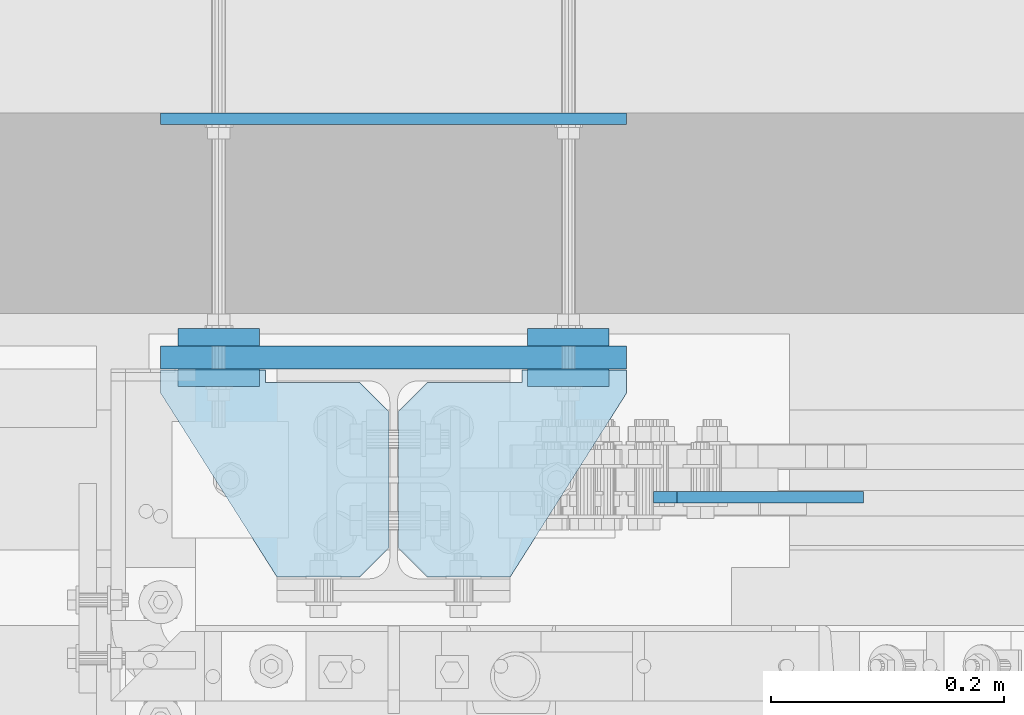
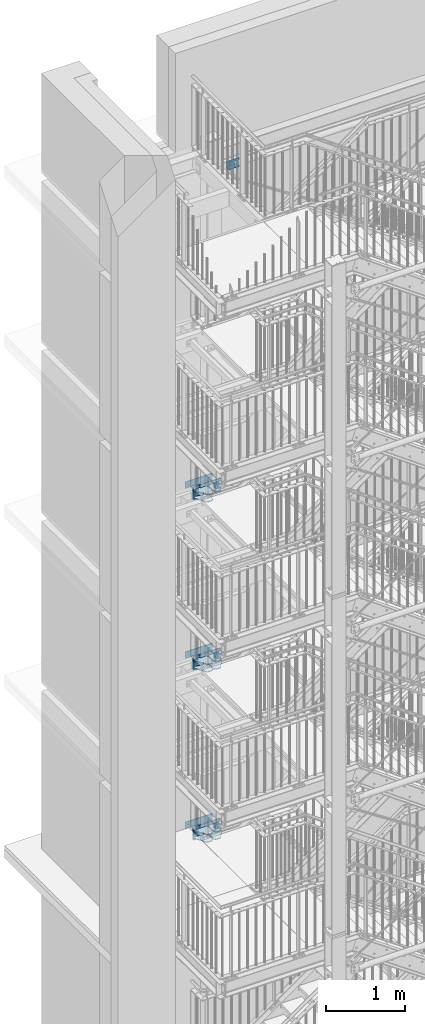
# One storey, part 188 of 831: 30 plates, 50 openings.
"""IFC2X3 building model written with IfcOpenShell, lengths in millimetres."""

from ifc_helpers import new_model, entity, si_unit, converted_unit, frame, frame_2d, origin, origin_with_axes, origin_2d_with_axis, place, context, project, spatial, polyline, circle, outline, extrude, material, layer, layer_set, element, save


model = new_model("IFC2X3")

# Units and contexts
model_context = context("Model", 3, precision=1e-09, world=origin_with_axes())
ifc_project = project(units=[si_unit("LENGTHUNIT", "METRE", prefix="MILLI"), si_unit("AREAUNIT", "SQUARE_METRE"), si_unit("VOLUMEUNIT", "CUBIC_METRE"), converted_unit("PLANEANGLEUNIT", "DEGREE", entity("IfcPlaneAngleMeasure", 0.01745329), si_unit("PLANEANGLEUNIT", "RADIAN"), dimensions=[0, 0, 0, 0, 0, 0, 0])], contexts=[model_context])

# Site, building, storey
site_placement = place(None, origin_with_axes())
site = spatial("IfcSite", under=ifc_project, at=site_placement, Name="Site", CompositionType="ELEMENT")
building_placement = place(site_placement, origin_with_axes())
building = spatial("IfcBuilding", under=site, at=building_placement, Name="Struktur 1", CompositionType="ELEMENT")
storey_placement = place(building_placement, origin_with_axes())
storey = spatial("IfcBuildingStorey", under=building, at=storey_placement, Name="Default Storey", CompositionType="ELEMENT", Elevation=0.0)

# Plate, openings
ifc_material = material(Name="S235JR")
ifc_layer_1 = layer(ifc_material, 10.0)
ifc_layer_set_1 = layer_set([ifc_layer_1], Name="S235JR")
plate_1_placement = place(None, frame((5169.963401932, 7506.736971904, 17498.999996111), z_axis=(0.0, 1.0, 0.0), x_axis=(-1.0, 0.0, 0.0)))
plate_1 = element("IfcPlate", 1, at=plate_1_placement, inside=storey, material=ifc_layer_set_1, Name="-", ObjectType="-", context=model_context, shape_type="SweptSolid", body=[
    extrude(outline(polyline([(-90.0, -70.0), (90.0, -70.0), (90.0, 70.0), (-90.0, 70.0), (-90.0, -70.0)])), origin_with_axes(), (0.0, 0.0, -1.0), 10.0),
])
opening_1_placement = place(plate_1_placement, frame((90.0, -70.0, 0.01), z_axis=(0.0, 0.0, 1.0), x_axis=(0.0, 1.0, 0.0)))
element("IfcOpeningElement", 2, at=opening_1_placement, cuts=plate_1, ObjectType="Opening", context=model_context, shape_type="SweptSolid", body=[
    extrude(outline(polyline([(0.0, 0.0), (20.0, 0.0), (0.0, 20.0), (0.0, 0.0)])), origin(), (0.0, 0.0, -1.0), 10.02),
])
opening_2_placement = place(plate_1_placement, frame((90.0, 70.0, 0.01), z_axis=(0.0, 0.0, 1.0), x_axis=(-1.0, 0.0, 0.0)))
element("IfcOpeningElement", 3, at=opening_2_placement, cuts=plate_1, ObjectType="Opening", context=model_context, shape_type="SweptSolid", body=[
    extrude(outline(polyline([(0.0, 0.0), (20.0, 0.0), (0.0, 20.0), (0.0, 0.0)])), origin(), (0.0, 0.0, -1.0), 10.02),
])
opening_3_placement = place(plate_1_placement, frame((40.999, 30.0, 0.5), z_axis=(0.0, 0.0, 1.0), x_axis=(1.0, 0.0, 0.0)))
element("IfcOpeningElement", 4, at=opening_3_placement, cuts=plate_1, ObjectType="Opening", context=model_context, shape_type="SweptSolid", body=[
    extrude(circle(Radius=9.001, at=frame_2d((9.001, 0.0), x_axis=(1.0, 0.0))), origin(), (0.0, 0.0, -1.0), 11.0),
])
opening_4_placement = place(plate_1_placement, frame((40.999, -30.0, 0.5), z_axis=(0.0, 0.0, 1.0), x_axis=(1.0, 0.0, 0.0)))
element("IfcOpeningElement", 5, at=opening_4_placement, cuts=plate_1, ObjectType="Opening", context=model_context, shape_type="SweptSolid", body=[
    extrude(circle(Radius=9.001, at=frame_2d((9.001, 0.0), x_axis=(1.0, 0.0))), origin(), (0.0, 0.0, -1.0), 11.0),
])

ifc_layer_2 = layer(ifc_material, 20.0)
ifc_layer_set_2 = layer_set([ifc_layer_2], Name="S235JR")
plate_2_placement = place(None, frame((4856.713402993, 7631.736971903, 7255.000000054), z_axis=(0.0, -1.0, 0.0), x_axis=(1.0, 0.0, 0.0)))
plate_2 = element("IfcPlate", 6, at=plate_2_placement, inside=storey, material=ifc_layer_set_2, Name="-", ObjectType="-", context=model_context, shape_type="SweptSolid", body=[
    extrude(outline(polyline([(-200.0, -100.0), (200.0, -100.0), (200.0, 100.0), (-200.0, 100.0), (-200.0, -100.0)])), origin_with_axes(), (0.0, 0.0, 1.0), 20.0),
])
opening_5_placement = place(plate_2_placement, frame((-3.4e-08, -5.4e-08, -0.5), z_axis=(0.0, 0.0, 1.0), x_axis=(1.0, 0.0, 0.0)))
element("IfcOpeningElement", 7, at=opening_5_placement, cuts=plate_2, ObjectType="Opening", context=model_context, shape_type="SweptSolid", body=[
    extrude(circle(Radius=20.001, at=frame_2d((150.0, 0.0), x_axis=(1.0, 0.0))), origin(), (0.0, 0.0, 1.0), 21.0),
])
opening_6_placement = place(plate_2_placement, frame((-3.4e-08, -5.4e-08, -0.5), z_axis=(0.0, 0.0, 1.0), x_axis=(1.0, 0.0, 0.0)))
element("IfcOpeningElement", 8, at=opening_6_placement, cuts=plate_2, ObjectType="Opening", context=model_context, shape_type="SweptSolid", body=[
    extrude(circle(Radius=20.001, at=frame_2d((-150.0, 0.0), x_axis=(1.0, 0.0))), origin(), (0.0, 0.0, 1.0), 21.0),
])

# Plate, opening
ifc_layer_3 = layer(ifc_material, 15.0)
ifc_layer_set_3 = layer_set([ifc_layer_3], Name="S235JR")
plate_3_placement = place(None, frame((4706.71340296, 7611.736971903, 7255.0), z_axis=(0.0, -1.0, 0.0), x_axis=(1.0, 0.0, 0.0)))
plate_3 = element("IfcPlate", 9, at=plate_3_placement, inside=storey, material=ifc_layer_set_3, Name="-", ObjectType="-", context=model_context, shape_type="SweptSolid", body=[
    extrude(outline(polyline([(-35.0, -35.0), (35.0, -35.0), (35.0, 35.0), (-35.0, 35.0), (-35.0, -35.0)])), origin_with_axes(), (0.0, 0.0, 1.0), 15.0),
])
opening_7_placement = place(plate_3_placement, frame((-2.68e-07, 0.0, -0.5), z_axis=(0.0, 0.0, 1.0), x_axis=(1.0, 0.0, 0.0)))
element("IfcOpeningElement", 10, at=opening_7_placement, cuts=plate_3, ObjectType="Opening", context=model_context, shape_type="SweptSolid", body=[
    extrude(circle(Radius=7.001, at=origin_2d_with_axis()), origin(), (0.0, 0.0, 1.0), 16.0),
])

plate_4_placement = place(None, frame((4706.71340296, 7646.736971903, 7255.0), z_axis=(0.0, -1.0, 0.0), x_axis=(1.0, 0.0, 0.0)))
plate_4 = element("IfcPlate", 11, at=plate_4_placement, inside=storey, material=ifc_layer_set_3, Name="-", ObjectType="-", context=model_context, shape_type="SweptSolid", body=[
    extrude(outline(polyline([(-35.0, -35.0), (35.0, -35.0), (35.0, 35.0), (-35.0, 35.0), (-35.0, -35.0)])), origin_with_axes(), (0.0, 0.0, 1.0), 15.0),
])
opening_8_placement = place(plate_4_placement, frame((-2.68e-07, 0.0, -0.5), z_axis=(0.0, 0.0, 1.0), x_axis=(1.0, 0.0, 0.0)))
element("IfcOpeningElement", 12, at=opening_8_placement, cuts=plate_4, ObjectType="Opening", context=model_context, shape_type="SweptSolid", body=[
    extrude(circle(Radius=7.001, at=origin_2d_with_axis()), origin(), (0.0, 0.0, 1.0), 16.0),
])

# Plate, openings
plate_5_placement = place(None, frame((4856.713402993, 7831.736971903, 7255.000000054), z_axis=(0.0, -1.0, 0.0), x_axis=(1.0, 0.0, 0.0)))
plate_5 = element("IfcPlate", 13, at=plate_5_placement, inside=storey, material=ifc_layer_set_1, Name="-", ObjectType="-", context=model_context, shape_type="SweptSolid", body=[
    extrude(outline(polyline([(-200.0, -50.0), (200.0, -50.0), (200.0, 50.0), (-200.0, 50.0), (-200.0, -50.0)])), origin_with_axes(), (0.0, 0.0, 1.0), 10.0),
])
opening_9_placement = place(plate_5_placement, frame((-3.4e-08, -5.4e-08, -0.5), z_axis=(0.0, 0.0, 1.0), x_axis=(1.0, 0.0, 0.0)))
element("IfcOpeningElement", 14, at=opening_9_placement, cuts=plate_5, ObjectType="Opening", context=model_context, shape_type="SweptSolid", body=[
    extrude(circle(Radius=7.001, at=frame_2d((150.0, 0.0), x_axis=(1.0, 0.0))), origin(), (0.0, 0.0, 1.0), 11.0),
])
opening_10_placement = place(plate_5_placement, frame((-3.4e-08, -5.4e-08, -0.5), z_axis=(0.0, 0.0, 1.0), x_axis=(1.0, 0.0, 0.0)))
element("IfcOpeningElement", 15, at=opening_10_placement, cuts=plate_5, ObjectType="Opening", context=model_context, shape_type="SweptSolid", body=[
    extrude(circle(Radius=7.001, at=frame_2d((-150.0, 0.0), x_axis=(1.0, 0.0))), origin(), (0.0, 0.0, 1.0), 11.0),
])

plate_6_placement = place(None, frame((4656.713402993, 7611.236971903, 7310.000000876), z_axis=(0.0, 0.0, 1.0), x_axis=(0.0, -1.0, 0.0)))
plate_6 = element("IfcPlate", 16, at=plate_6_placement, inside=storey, material=ifc_layer_set_1, Name="-", ObjectType="-", context=model_context, shape_type="SweptSolid", body=[
    extrude(outline(polyline([(0.0, 0.0), (20.0, 0.0), (178.0, 100.0), (178.0, 196.0), (11.0, 196.0), (11.0, 90.0), (0.0, 90.0), (0.0, 0.0)])), origin_with_axes(), (0.0, 0.0, 1.0), 10.0),
])
opening_11_placement = place(plate_6_placement, frame((0.0, 0.0, -0.01), z_axis=(0.0, 0.0, 1.0), x_axis=(1.0, 0.0, 0.0)))
element("IfcOpeningElement", 17, at=opening_11_placement, cuts=plate_6, ObjectType="Opening", context=model_context, shape_type="SweptSolid", body=[
    extrude(outline(polyline([(11.0, 196.0), (11.0, 171.0), (36.0, 196.0), (11.0, 196.0)])), origin(), (0.0, 0.0, 1.0), 10.02),
])
opening_12_placement = place(plate_6_placement, frame((0.0, 0.0, -0.01), z_axis=(0.0, 0.0, 1.0), x_axis=(1.0, 0.0, 0.0)))
element("IfcOpeningElement", 18, at=opening_12_placement, cuts=plate_6, ObjectType="Opening", context=model_context, shape_type="SweptSolid", body=[
    extrude(outline(polyline([(178.0, 196.0), (153.0, 196.0), (178.0, 171.0), (178.0, 196.0)])), origin(), (0.0, 0.0, 1.0), 10.02),
])

plate_7_placement = place(None, frame((5056.713402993, 7611.236971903, 7310.000000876), z_axis=(0.0, 0.0, -1.0), x_axis=(0.0, -1.0, 0.0)))
plate_7 = element("IfcPlate", 19, at=plate_7_placement, inside=storey, material=ifc_layer_set_1, Name="-", ObjectType="-", context=model_context, shape_type="SweptSolid", body=[
    extrude(outline(polyline([(0.0, 0.0), (20.0, 0.0), (178.0, 100.0), (178.0, 196.0), (11.0, 196.0), (11.0, 90.0), (0.0, 90.0), (0.0, 0.0)])), origin_with_axes(), (0.0, 0.0, -1.0), 10.0),
])
opening_13_placement = place(plate_7_placement, frame((11.0, 196.0, 0.01), z_axis=(0.0, 0.0, 1.0), x_axis=(0.0, -1.0, 0.0)))
element("IfcOpeningElement", 20, at=opening_13_placement, cuts=plate_7, ObjectType="Opening", context=model_context, shape_type="SweptSolid", body=[
    extrude(outline(polyline([(0.0, 0.0), (25.0, 0.0), (0.0, 25.0), (0.0, 0.0)])), origin(), (0.0, 0.0, -1.0), 10.02),
])
opening_14_placement = place(plate_7_placement, frame((178.0, 196.0, 0.01), z_axis=(0.0, 0.0, 1.0), x_axis=(-1.0, 0.0, 0.0)))
element("IfcOpeningElement", 21, at=opening_14_placement, cuts=plate_7, ObjectType="Opening", context=model_context, shape_type="SweptSolid", body=[
    extrude(outline(polyline([(0.0, 0.0), (25.0, 0.0), (0.0, 25.0), (0.0, 0.0)])), origin(), (0.0, 0.0, -1.0), 10.02),
])

plate_8_placement = place(None, frame((4656.713402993, 7611.236971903, 7190.000000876), z_axis=(0.0, 0.0, 1.0), x_axis=(0.0, -1.0, 0.0)))
plate_8 = element("IfcPlate", 22, at=plate_8_placement, inside=storey, material=ifc_layer_set_1, Name="-", ObjectType="-", context=model_context, shape_type="SweptSolid", body=[
    extrude(outline(polyline([(0.0, 0.0), (20.0, 0.0), (178.0, 100.0), (178.0, 196.0), (11.0, 196.0), (11.0, 90.0), (0.0, 90.0), (0.0, 0.0)])), origin_with_axes(), (0.0, 0.0, 1.0), 10.0),
])
opening_15_placement = place(plate_8_placement, frame((0.0, 0.0, -0.01), z_axis=(0.0, 0.0, 1.0), x_axis=(1.0, 0.0, 0.0)))
element("IfcOpeningElement", 23, at=opening_15_placement, cuts=plate_8, ObjectType="Opening", context=model_context, shape_type="SweptSolid", body=[
    extrude(outline(polyline([(11.0, 196.0), (11.0, 171.0), (36.0, 196.0), (11.0, 196.0)])), origin(), (0.0, 0.0, 1.0), 10.02),
])
opening_16_placement = place(plate_8_placement, frame((0.0, 0.0, -0.01), z_axis=(0.0, 0.0, 1.0), x_axis=(1.0, 0.0, 0.0)))
element("IfcOpeningElement", 24, at=opening_16_placement, cuts=plate_8, ObjectType="Opening", context=model_context, shape_type="SweptSolid", body=[
    extrude(outline(polyline([(178.0, 196.0), (153.0, 196.0), (178.0, 171.0), (178.0, 196.0)])), origin(), (0.0, 0.0, 1.0), 10.02),
])

plate_9_placement = place(None, frame((5056.713402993, 7611.236971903, 7190.000000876), z_axis=(0.0, 0.0, -1.0), x_axis=(0.0, -1.0, 0.0)))
plate_9 = element("IfcPlate", 25, at=plate_9_placement, inside=storey, material=ifc_layer_set_1, Name="-", ObjectType="-", context=model_context, shape_type="SweptSolid", body=[
    extrude(outline(polyline([(0.0, 0.0), (20.0, 0.0), (178.0, 100.0), (178.0, 196.0), (11.0, 196.0), (11.0, 90.0), (0.0, 90.0), (0.0, 0.0)])), origin_with_axes(), (0.0, 0.0, -1.0), 10.0),
])
opening_17_placement = place(plate_9_placement, frame((11.0, 196.0, 0.01), z_axis=(0.0, 0.0, 1.0), x_axis=(0.0, -1.0, 0.0)))
element("IfcOpeningElement", 26, at=opening_17_placement, cuts=plate_9, ObjectType="Opening", context=model_context, shape_type="SweptSolid", body=[
    extrude(outline(polyline([(0.0, 0.0), (25.0, 0.0), (0.0, 25.0), (0.0, 0.0)])), origin(), (0.0, 0.0, -1.0), 10.02),
])
opening_18_placement = place(plate_9_placement, frame((178.0, 196.0, 0.01), z_axis=(0.0, 0.0, 1.0), x_axis=(-1.0, 0.0, 0.0)))
element("IfcOpeningElement", 27, at=opening_18_placement, cuts=plate_9, ObjectType="Opening", context=model_context, shape_type="SweptSolid", body=[
    extrude(outline(polyline([(0.0, 0.0), (25.0, 0.0), (0.0, 25.0), (0.0, 0.0)])), origin(), (0.0, 0.0, -1.0), 10.02),
])

# Plate, opening
plate_10_placement = place(None, frame((5006.713403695, 7611.736971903, 7255.0), z_axis=(0.0, 1.0, 0.0), x_axis=(-1.0, 0.0, 0.0)))
plate_10 = element("IfcPlate", 28, at=plate_10_placement, inside=storey, material=ifc_layer_set_3, Name="-", ObjectType="-", context=model_context, shape_type="SweptSolid", body=[
    extrude(outline(polyline([(-35.0, -35.0), (35.0, -35.0), (35.0, 35.0), (-35.0, 35.0), (-35.0, -35.0)])), origin_with_axes(), (0.0, 0.0, -1.0), 15.0),
])
opening_19_placement = place(plate_10_placement, frame((-7.001000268, 0.0, 0.5), z_axis=(0.0, 0.0, 1.0), x_axis=(1.0, 0.0, 0.0)))
element("IfcOpeningElement", 29, at=opening_19_placement, cuts=plate_10, ObjectType="Opening", context=model_context, shape_type="SweptSolid", body=[
    extrude(circle(Radius=7.001, at=frame_2d((7.001, 0.0), x_axis=(1.0, 0.0))), origin(), (0.0, 0.0, -1.0), 16.0),
])

plate_11_placement = place(None, frame((5006.713403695, 7646.736971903, 7255.0), z_axis=(0.0, 1.0, 0.0), x_axis=(-1.0, 0.0, 0.0)))
plate_11 = element("IfcPlate", 30, at=plate_11_placement, inside=storey, material=ifc_layer_set_3, Name="-", ObjectType="-", context=model_context, shape_type="SweptSolid", body=[
    extrude(outline(polyline([(-35.0, -35.0), (35.0, -35.0), (35.0, 35.0), (-35.0, 35.0), (-35.0, -35.0)])), origin_with_axes(), (0.0, 0.0, -1.0), 15.0),
])
opening_20_placement = place(plate_11_placement, frame((-7.001000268, 0.0, 0.5), z_axis=(0.0, 0.0, 1.0), x_axis=(1.0, 0.0, 0.0)))
element("IfcOpeningElement", 31, at=opening_20_placement, cuts=plate_11, ObjectType="Opening", context=model_context, shape_type="SweptSolid", body=[
    extrude(circle(Radius=7.001, at=frame_2d((7.001, 0.0), x_axis=(1.0, 0.0))), origin(), (0.0, 0.0, -1.0), 16.0),
])

plate_12_placement = place(None, frame((5006.713403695, 7646.736971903, 9887.0), z_axis=(0.0, 1.0, 0.0), x_axis=(-1.0, 0.0, 0.0)))
plate_12 = element("IfcPlate", 32, at=plate_12_placement, inside=storey, material=ifc_layer_set_3, Name="-", ObjectType="-", context=model_context, shape_type="SweptSolid", body=[
    extrude(outline(polyline([(-35.0, -35.0), (35.0, -35.0), (35.0, 35.0), (-35.0, 35.0), (-35.0, -35.0)])), origin_with_axes(), (0.0, 0.0, -1.0), 15.0),
])
opening_21_placement = place(plate_12_placement, frame((-7.001000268, 0.0, 0.5), z_axis=(0.0, 0.0, 1.0), x_axis=(1.0, 0.0, 0.0)))
element("IfcOpeningElement", 33, at=opening_21_placement, cuts=plate_12, ObjectType="Opening", context=model_context, shape_type="SweptSolid", body=[
    extrude(circle(Radius=7.001, at=frame_2d((7.001, 0.0), x_axis=(1.0, 0.0))), origin(), (0.0, 0.0, -1.0), 16.0),
])

plate_13_placement = place(None, frame((5006.713403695, 7611.736971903, 9887.0), z_axis=(0.0, 1.0, 0.0), x_axis=(-1.0, 0.0, 0.0)))
plate_13 = element("IfcPlate", 34, at=plate_13_placement, inside=storey, material=ifc_layer_set_3, Name="-", ObjectType="-", context=model_context, shape_type="SweptSolid", body=[
    extrude(outline(polyline([(-35.0, -35.0), (35.0, -35.0), (35.0, 35.0), (-35.0, 35.0), (-35.0, -35.0)])), origin_with_axes(), (0.0, 0.0, -1.0), 15.0),
])
opening_22_placement = place(plate_13_placement, frame((-7.001000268, 0.0, 0.5), z_axis=(0.0, 0.0, 1.0), x_axis=(1.0, 0.0, 0.0)))
element("IfcOpeningElement", 35, at=opening_22_placement, cuts=plate_13, ObjectType="Opening", context=model_context, shape_type="SweptSolid", body=[
    extrude(circle(Radius=7.001, at=frame_2d((7.001, 0.0), x_axis=(1.0, 0.0))), origin(), (0.0, 0.0, -1.0), 16.0),
])

# Plate, openings
plate_14_placement = place(None, frame((4856.713402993, 7831.736971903, 9887.000000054), z_axis=(0.0, -1.0, 0.0), x_axis=(1.0, 0.0, 0.0)))
plate_14 = element("IfcPlate", 36, at=plate_14_placement, inside=storey, material=ifc_layer_set_1, Name="-", ObjectType="-", context=model_context, shape_type="SweptSolid", body=[
    extrude(outline(polyline([(-200.0, -50.0), (200.0, -50.0), (200.0, 50.0), (-200.0, 50.0), (-200.0, -50.0)])), origin_with_axes(), (0.0, 0.0, 1.0), 10.0),
])
opening_23_placement = place(plate_14_placement, frame((-3.4e-08, -5.4e-08, -0.5), z_axis=(0.0, 0.0, 1.0), x_axis=(1.0, 0.0, 0.0)))
element("IfcOpeningElement", 37, at=opening_23_placement, cuts=plate_14, ObjectType="Opening", context=model_context, shape_type="SweptSolid", body=[
    extrude(circle(Radius=7.001, at=frame_2d((150.0, 0.0), x_axis=(1.0, 0.0))), origin(), (0.0, 0.0, 1.0), 11.0),
])
opening_24_placement = place(plate_14_placement, frame((-3.4e-08, -5.4e-08, -0.5), z_axis=(0.0, 0.0, 1.0), x_axis=(1.0, 0.0, 0.0)))
element("IfcOpeningElement", 38, at=opening_24_placement, cuts=plate_14, ObjectType="Opening", context=model_context, shape_type="SweptSolid", body=[
    extrude(circle(Radius=7.001, at=frame_2d((-150.0, 0.0), x_axis=(1.0, 0.0))), origin(), (0.0, 0.0, 1.0), 11.0),
])

# Plate, opening
plate_15_placement = place(None, frame((4706.71340296, 7646.736971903, 9887.0), z_axis=(0.0, -1.0, 0.0), x_axis=(1.0, 0.0, 0.0)))
plate_15 = element("IfcPlate", 39, at=plate_15_placement, inside=storey, material=ifc_layer_set_3, Name="-", ObjectType="-", context=model_context, shape_type="SweptSolid", body=[
    extrude(outline(polyline([(-35.0, -35.0), (35.0, -35.0), (35.0, 35.0), (-35.0, 35.0), (-35.0, -35.0)])), origin_with_axes(), (0.0, 0.0, 1.0), 15.0),
])
opening_25_placement = place(plate_15_placement, frame((-2.68e-07, 0.0, -0.5), z_axis=(0.0, 0.0, 1.0), x_axis=(1.0, 0.0, 0.0)))
element("IfcOpeningElement", 40, at=opening_25_placement, cuts=plate_15, ObjectType="Opening", context=model_context, shape_type="SweptSolid", body=[
    extrude(circle(Radius=7.001, at=origin_2d_with_axis()), origin(), (0.0, 0.0, 1.0), 16.0),
])

plate_16_placement = place(None, frame((4706.71340296, 7611.736971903, 9887.0), z_axis=(0.0, -1.0, 0.0), x_axis=(1.0, 0.0, 0.0)))
plate_16 = element("IfcPlate", 41, at=plate_16_placement, inside=storey, material=ifc_layer_set_3, Name="-", ObjectType="-", context=model_context, shape_type="SweptSolid", body=[
    extrude(outline(polyline([(-35.0, -35.0), (35.0, -35.0), (35.0, 35.0), (-35.0, 35.0), (-35.0, -35.0)])), origin_with_axes(), (0.0, 0.0, 1.0), 15.0),
])
opening_26_placement = place(plate_16_placement, frame((-2.68e-07, 0.0, -0.5), z_axis=(0.0, 0.0, 1.0), x_axis=(1.0, 0.0, 0.0)))
element("IfcOpeningElement", 42, at=opening_26_placement, cuts=plate_16, ObjectType="Opening", context=model_context, shape_type="SweptSolid", body=[
    extrude(circle(Radius=7.001, at=origin_2d_with_axis()), origin(), (0.0, 0.0, 1.0), 16.0),
])

# Plate, openings
plate_17_placement = place(None, frame((5056.713402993, 7611.236971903, 9822.000000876), z_axis=(0.0, 0.0, -1.0), x_axis=(0.0, -1.0, 0.0)))
plate_17 = element("IfcPlate", 43, at=plate_17_placement, inside=storey, material=ifc_layer_set_1, Name="-", ObjectType="-", context=model_context, shape_type="SweptSolid", body=[
    extrude(outline(polyline([(0.0, 0.0), (20.0, 0.0), (178.0, 100.0), (178.0, 196.0), (11.0, 196.0), (11.0, 90.0), (0.0, 90.0), (0.0, 0.0)])), origin_with_axes(), (0.0, 0.0, -1.0), 10.0),
])
opening_27_placement = place(plate_17_placement, frame((11.0, 196.0, 0.01), z_axis=(0.0, 0.0, 1.0), x_axis=(0.0, -1.0, 0.0)))
element("IfcOpeningElement", 44, at=opening_27_placement, cuts=plate_17, ObjectType="Opening", context=model_context, shape_type="SweptSolid", body=[
    extrude(outline(polyline([(0.0, 0.0), (25.0, 0.0), (0.0, 25.0), (0.0, 0.0)])), origin(), (0.0, 0.0, -1.0), 10.02),
])
opening_28_placement = place(plate_17_placement, frame((178.0, 196.0, 0.01), z_axis=(0.0, 0.0, 1.0), x_axis=(-1.0, 0.0, 0.0)))
element("IfcOpeningElement", 45, at=opening_28_placement, cuts=plate_17, ObjectType="Opening", context=model_context, shape_type="SweptSolid", body=[
    extrude(outline(polyline([(0.0, 0.0), (25.0, 0.0), (0.0, 25.0), (0.0, 0.0)])), origin(), (0.0, 0.0, -1.0), 10.02),
])

plate_18_placement = place(None, frame((5056.713402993, 7611.236971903, 9942.000000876), z_axis=(0.0, 0.0, -1.0), x_axis=(0.0, -1.0, 0.0)))
plate_18 = element("IfcPlate", 46, at=plate_18_placement, inside=storey, material=ifc_layer_set_1, Name="-", ObjectType="-", context=model_context, shape_type="SweptSolid", body=[
    extrude(outline(polyline([(0.0, 0.0), (20.0, 0.0), (178.0, 100.0), (178.0, 196.0), (11.0, 196.0), (11.0, 90.0), (0.0, 90.0), (0.0, 0.0)])), origin_with_axes(), (0.0, 0.0, -1.0), 10.0),
])
opening_29_placement = place(plate_18_placement, frame((11.0, 196.0, 0.01), z_axis=(0.0, 0.0, 1.0), x_axis=(0.0, -1.0, 0.0)))
element("IfcOpeningElement", 47, at=opening_29_placement, cuts=plate_18, ObjectType="Opening", context=model_context, shape_type="SweptSolid", body=[
    extrude(outline(polyline([(0.0, 0.0), (25.0, 0.0), (0.0, 25.0), (0.0, 0.0)])), origin(), (0.0, 0.0, -1.0), 10.02),
])
opening_30_placement = place(plate_18_placement, frame((178.0, 196.0, 0.01), z_axis=(0.0, 0.0, 1.0), x_axis=(-1.0, 0.0, 0.0)))
element("IfcOpeningElement", 48, at=opening_30_placement, cuts=plate_18, ObjectType="Opening", context=model_context, shape_type="SweptSolid", body=[
    extrude(outline(polyline([(0.0, 0.0), (25.0, 0.0), (0.0, 25.0), (0.0, 0.0)])), origin(), (0.0, 0.0, -1.0), 10.02),
])

plate_19_placement = place(None, frame((4656.713402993, 7611.236971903, 9822.000000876), z_axis=(0.0, 0.0, 1.0), x_axis=(0.0, -1.0, 0.0)))
plate_19 = element("IfcPlate", 49, at=plate_19_placement, inside=storey, material=ifc_layer_set_1, Name="-", ObjectType="-", context=model_context, shape_type="SweptSolid", body=[
    extrude(outline(polyline([(0.0, 0.0), (20.0, 0.0), (178.0, 100.0), (178.0, 196.0), (11.0, 196.0), (11.0, 90.0), (0.0, 90.0), (0.0, 0.0)])), origin_with_axes(), (0.0, 0.0, 1.0), 10.0),
])
opening_31_placement = place(plate_19_placement, frame((0.0, 0.0, -0.01), z_axis=(0.0, 0.0, 1.0), x_axis=(1.0, 0.0, 0.0)))
element("IfcOpeningElement", 50, at=opening_31_placement, cuts=plate_19, ObjectType="Opening", context=model_context, shape_type="SweptSolid", body=[
    extrude(outline(polyline([(11.0, 196.0), (11.0, 171.0), (36.0, 196.0), (11.0, 196.0)])), origin(), (0.0, 0.0, 1.0), 10.02),
])
opening_32_placement = place(plate_19_placement, frame((0.0, 0.0, -0.01), z_axis=(0.0, 0.0, 1.0), x_axis=(1.0, 0.0, 0.0)))
element("IfcOpeningElement", 51, at=opening_32_placement, cuts=plate_19, ObjectType="Opening", context=model_context, shape_type="SweptSolid", body=[
    extrude(outline(polyline([(178.0, 196.0), (153.0, 196.0), (178.0, 171.0), (178.0, 196.0)])), origin(), (0.0, 0.0, 1.0), 10.02),
])

plate_20_placement = place(None, frame((4656.713402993, 7611.236971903, 9942.000000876), z_axis=(0.0, 0.0, 1.0), x_axis=(0.0, -1.0, 0.0)))
plate_20 = element("IfcPlate", 52, at=plate_20_placement, inside=storey, material=ifc_layer_set_1, Name="-", ObjectType="-", context=model_context, shape_type="SweptSolid", body=[
    extrude(outline(polyline([(0.0, 0.0), (20.0, 0.0), (178.0, 100.0), (178.0, 196.0), (11.0, 196.0), (11.0, 90.0), (0.0, 90.0), (0.0, 0.0)])), origin_with_axes(), (0.0, 0.0, 1.0), 10.0),
])
opening_33_placement = place(plate_20_placement, frame((0.0, 0.0, -0.01), z_axis=(0.0, 0.0, 1.0), x_axis=(1.0, 0.0, 0.0)))
element("IfcOpeningElement", 53, at=opening_33_placement, cuts=plate_20, ObjectType="Opening", context=model_context, shape_type="SweptSolid", body=[
    extrude(outline(polyline([(11.0, 196.0), (11.0, 171.0), (36.0, 196.0), (11.0, 196.0)])), origin(), (0.0, 0.0, 1.0), 10.02),
])
opening_34_placement = place(plate_20_placement, frame((0.0, 0.0, -0.01), z_axis=(0.0, 0.0, 1.0), x_axis=(1.0, 0.0, 0.0)))
element("IfcOpeningElement", 54, at=opening_34_placement, cuts=plate_20, ObjectType="Opening", context=model_context, shape_type="SweptSolid", body=[
    extrude(outline(polyline([(178.0, 196.0), (153.0, 196.0), (178.0, 171.0), (178.0, 196.0)])), origin(), (0.0, 0.0, 1.0), 10.02),
])

plate_21_placement = place(None, frame((4856.713402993, 7631.736971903, 9887.000000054), z_axis=(0.0, -1.0, 0.0), x_axis=(1.0, 0.0, 0.0)))
plate_21 = element("IfcPlate", 55, at=plate_21_placement, inside=storey, material=ifc_layer_set_2, Name="-", ObjectType="-", context=model_context, shape_type="SweptSolid", body=[
    extrude(outline(polyline([(-200.0, -100.0), (200.0, -100.0), (200.0, 100.0), (-200.0, 100.0), (-200.0, -100.0)])), origin_with_axes(), (0.0, 0.0, 1.0), 20.0),
])
opening_35_placement = place(plate_21_placement, frame((-3.4e-08, -5.4e-08, -0.5), z_axis=(0.0, 0.0, 1.0), x_axis=(1.0, 0.0, 0.0)))
element("IfcOpeningElement", 56, at=opening_35_placement, cuts=plate_21, ObjectType="Opening", context=model_context, shape_type="SweptSolid", body=[
    extrude(circle(Radius=20.001, at=frame_2d((150.0, 0.0), x_axis=(1.0, 0.0))), origin(), (0.0, 0.0, 1.0), 21.0),
])
opening_36_placement = place(plate_21_placement, frame((-3.4e-08, -5.4e-08, -0.5), z_axis=(0.0, 0.0, 1.0), x_axis=(1.0, 0.0, 0.0)))
element("IfcOpeningElement", 57, at=opening_36_placement, cuts=plate_21, ObjectType="Opening", context=model_context, shape_type="SweptSolid", body=[
    extrude(circle(Radius=20.001, at=frame_2d((-150.0, 0.0), x_axis=(1.0, 0.0))), origin(), (0.0, 0.0, 1.0), 21.0),
])

# Plate, opening
plate_22_placement = place(None, frame((4706.71340296, 7611.736971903, 12514.0), z_axis=(0.0, -1.0, 0.0), x_axis=(1.0, 0.0, 0.0)))
plate_22 = element("IfcPlate", 58, at=plate_22_placement, inside=storey, material=ifc_layer_set_3, Name="-", ObjectType="-", context=model_context, shape_type="SweptSolid", body=[
    extrude(outline(polyline([(-35.0, -35.0), (35.0, -35.0), (35.0, 35.0), (-35.0, 35.0), (-35.0, -35.0)])), origin_with_axes(), (0.0, 0.0, 1.0), 15.0),
])
opening_37_placement = place(plate_22_placement, frame((-2.68e-07, 0.0, -0.5), z_axis=(0.0, 0.0, 1.0), x_axis=(1.0, 0.0, 0.0)))
element("IfcOpeningElement", 59, at=opening_37_placement, cuts=plate_22, ObjectType="Opening", context=model_context, shape_type="SweptSolid", body=[
    extrude(circle(Radius=7.001, at=origin_2d_with_axis()), origin(), (0.0, 0.0, 1.0), 16.0),
])

plate_23_placement = place(None, frame((4706.71340296, 7646.736971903, 12514.0), z_axis=(0.0, -1.0, 0.0), x_axis=(1.0, 0.0, 0.0)))
plate_23 = element("IfcPlate", 60, at=plate_23_placement, inside=storey, material=ifc_layer_set_3, Name="-", ObjectType="-", context=model_context, shape_type="SweptSolid", body=[
    extrude(outline(polyline([(-35.0, -35.0), (35.0, -35.0), (35.0, 35.0), (-35.0, 35.0), (-35.0, -35.0)])), origin_with_axes(), (0.0, 0.0, 1.0), 15.0),
])
opening_38_placement = place(plate_23_placement, frame((-2.68e-07, 0.0, -0.5), z_axis=(0.0, 0.0, 1.0), x_axis=(1.0, 0.0, 0.0)))
element("IfcOpeningElement", 61, at=opening_38_placement, cuts=plate_23, ObjectType="Opening", context=model_context, shape_type="SweptSolid", body=[
    extrude(circle(Radius=7.001, at=origin_2d_with_axis()), origin(), (0.0, 0.0, 1.0), 16.0),
])

# Plate, openings
plate_24_placement = place(None, frame((4856.713402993, 7831.736971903, 12514.000000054), z_axis=(0.0, -1.0, 0.0), x_axis=(1.0, 0.0, 0.0)))
plate_24 = element("IfcPlate", 62, at=plate_24_placement, inside=storey, material=ifc_layer_set_1, Name="-", ObjectType="-", context=model_context, shape_type="SweptSolid", body=[
    extrude(outline(polyline([(-200.0, -50.0), (200.0, -50.0), (200.0, 50.0), (-200.0, 50.0), (-200.0, -50.0)])), origin_with_axes(), (0.0, 0.0, 1.0), 10.0),
])
opening_39_placement = place(plate_24_placement, frame((-3.4e-08, -5.4e-08, -0.5), z_axis=(0.0, 0.0, 1.0), x_axis=(1.0, 0.0, 0.0)))
element("IfcOpeningElement", 63, at=opening_39_placement, cuts=plate_24, ObjectType="Opening", context=model_context, shape_type="SweptSolid", body=[
    extrude(circle(Radius=7.001, at=frame_2d((150.0, 0.0), x_axis=(1.0, 0.0))), origin(), (0.0, 0.0, 1.0), 11.0),
])
opening_40_placement = place(plate_24_placement, frame((-3.4e-08, -5.4e-08, -0.5), z_axis=(0.0, 0.0, 1.0), x_axis=(1.0, 0.0, 0.0)))
element("IfcOpeningElement", 64, at=opening_40_placement, cuts=plate_24, ObjectType="Opening", context=model_context, shape_type="SweptSolid", body=[
    extrude(circle(Radius=7.001, at=frame_2d((-150.0, 0.0), x_axis=(1.0, 0.0))), origin(), (0.0, 0.0, 1.0), 11.0),
])

# Plate, opening
plate_25_placement = place(None, frame((5006.713403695, 7611.736971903, 12514.0), z_axis=(0.0, 1.0, 0.0), x_axis=(-1.0, 0.0, 0.0)))
plate_25 = element("IfcPlate", 65, at=plate_25_placement, inside=storey, material=ifc_layer_set_3, Name="-", ObjectType="-", context=model_context, shape_type="SweptSolid", body=[
    extrude(outline(polyline([(-35.0, -35.0), (35.0, -35.0), (35.0, 35.0), (-35.0, 35.0), (-35.0, -35.0)])), origin_with_axes(), (0.0, 0.0, -1.0), 15.0),
])
opening_41_placement = place(plate_25_placement, frame((-7.001000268, 0.0, 0.5), z_axis=(0.0, 0.0, 1.0), x_axis=(1.0, 0.0, 0.0)))
element("IfcOpeningElement", 66, at=opening_41_placement, cuts=plate_25, ObjectType="Opening", context=model_context, shape_type="SweptSolid", body=[
    extrude(circle(Radius=7.001, at=frame_2d((7.001, 0.0), x_axis=(1.0, 0.0))), origin(), (0.0, 0.0, -1.0), 16.0),
])

plate_26_placement = place(None, frame((5006.713403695, 7646.736971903, 12514.0), z_axis=(0.0, 1.0, 0.0), x_axis=(-1.0, 0.0, 0.0)))
plate_26 = element("IfcPlate", 67, at=plate_26_placement, inside=storey, material=ifc_layer_set_3, Name="-", ObjectType="-", context=model_context, shape_type="SweptSolid", body=[
    extrude(outline(polyline([(-35.0, -35.0), (35.0, -35.0), (35.0, 35.0), (-35.0, 35.0), (-35.0, -35.0)])), origin_with_axes(), (0.0, 0.0, -1.0), 15.0),
])
opening_42_placement = place(plate_26_placement, frame((-7.001000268, 0.0, 0.5), z_axis=(0.0, 0.0, 1.0), x_axis=(1.0, 0.0, 0.0)))
element("IfcOpeningElement", 68, at=opening_42_placement, cuts=plate_26, ObjectType="Opening", context=model_context, shape_type="SweptSolid", body=[
    extrude(circle(Radius=7.001, at=frame_2d((7.001, 0.0), x_axis=(1.0, 0.0))), origin(), (0.0, 0.0, -1.0), 16.0),
])

# Plate, openings
plate_27_placement = place(None, frame((4856.713402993, 7631.736971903, 12514.000000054), z_axis=(0.0, -1.0, 0.0), x_axis=(1.0, 0.0, 0.0)))
plate_27 = element("IfcPlate", 69, at=plate_27_placement, inside=storey, material=ifc_layer_set_2, Name="-", ObjectType="-", context=model_context, shape_type="SweptSolid", body=[
    extrude(outline(polyline([(-200.0, -100.0), (200.0, -100.0), (200.0, 100.0), (-200.0, 100.0), (-200.0, -100.0)])), origin_with_axes(), (0.0, 0.0, 1.0), 20.0),
])
opening_43_placement = place(plate_27_placement, frame((-3.4e-08, -5.4e-08, -0.5), z_axis=(0.0, 0.0, 1.0), x_axis=(1.0, 0.0, 0.0)))
element("IfcOpeningElement", 70, at=opening_43_placement, cuts=plate_27, ObjectType="Opening", context=model_context, shape_type="SweptSolid", body=[
    extrude(circle(Radius=20.001, at=frame_2d((150.0, 0.0), x_axis=(1.0, 0.0))), origin(), (0.0, 0.0, 1.0), 21.0),
])
opening_44_placement = place(plate_27_placement, frame((-3.4e-08, -5.4e-08, -0.5), z_axis=(0.0, 0.0, 1.0), x_axis=(1.0, 0.0, 0.0)))
element("IfcOpeningElement", 71, at=opening_44_placement, cuts=plate_27, ObjectType="Opening", context=model_context, shape_type="SweptSolid", body=[
    extrude(circle(Radius=20.001, at=frame_2d((-150.0, 0.0), x_axis=(1.0, 0.0))), origin(), (0.0, 0.0, 1.0), 21.0),
])

plate_28_placement = place(None, frame((4656.713402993, 7611.236971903, 12569.000000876), z_axis=(0.0, 0.0, 1.0), x_axis=(0.0, -1.0, 0.0)))
plate_28 = element("IfcPlate", 72, at=plate_28_placement, inside=storey, material=ifc_layer_set_1, Name="-", ObjectType="-", context=model_context, shape_type="SweptSolid", body=[
    extrude(outline(polyline([(0.0, 0.0), (20.0, 0.0), (178.0, 100.0), (178.0, 196.0), (11.0, 196.0), (11.0, 90.0), (0.0, 90.0), (0.0, 0.0)])), origin_with_axes(), (0.0, 0.0, 1.0), 10.0),
])
opening_45_placement = place(plate_28_placement, frame((0.0, 0.0, -0.01), z_axis=(0.0, 0.0, 1.0), x_axis=(1.0, 0.0, 0.0)))
element("IfcOpeningElement", 73, at=opening_45_placement, cuts=plate_28, ObjectType="Opening", context=model_context, shape_type="SweptSolid", body=[
    extrude(outline(polyline([(11.0, 196.0), (11.0, 171.0), (36.0, 196.0), (11.0, 196.0)])), origin(), (0.0, 0.0, 1.0), 10.02),
])
opening_46_placement = place(plate_28_placement, frame((0.0, 0.0, -0.01), z_axis=(0.0, 0.0, 1.0), x_axis=(1.0, 0.0, 0.0)))
element("IfcOpeningElement", 74, at=opening_46_placement, cuts=plate_28, ObjectType="Opening", context=model_context, shape_type="SweptSolid", body=[
    extrude(outline(polyline([(178.0, 196.0), (153.0, 196.0), (178.0, 171.0), (178.0, 196.0)])), origin(), (0.0, 0.0, 1.0), 10.02),
])

plate_29_placement = place(None, frame((4656.713402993, 7611.236971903, 12449.000000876), z_axis=(0.0, 0.0, 1.0), x_axis=(0.0, -1.0, 0.0)))
plate_29 = element("IfcPlate", 75, at=plate_29_placement, inside=storey, material=ifc_layer_set_1, Name="-", ObjectType="-", context=model_context, shape_type="SweptSolid", body=[
    extrude(outline(polyline([(0.0, 0.0), (20.0, 0.0), (178.0, 100.0), (178.0, 196.0), (11.0, 196.0), (11.0, 90.0), (0.0, 90.0), (0.0, 0.0)])), origin_with_axes(), (0.0, 0.0, 1.0), 10.0),
])
opening_47_placement = place(plate_29_placement, frame((0.0, 0.0, -0.01), z_axis=(0.0, 0.0, 1.0), x_axis=(1.0, 0.0, 0.0)))
element("IfcOpeningElement", 76, at=opening_47_placement, cuts=plate_29, ObjectType="Opening", context=model_context, shape_type="SweptSolid", body=[
    extrude(outline(polyline([(11.0, 196.0), (11.0, 171.0), (36.0, 196.0), (11.0, 196.0)])), origin(), (0.0, 0.0, 1.0), 10.02),
])
opening_48_placement = place(plate_29_placement, frame((0.0, 0.0, -0.01), z_axis=(0.0, 0.0, 1.0), x_axis=(1.0, 0.0, 0.0)))
element("IfcOpeningElement", 77, at=opening_48_placement, cuts=plate_29, ObjectType="Opening", context=model_context, shape_type="SweptSolid", body=[
    extrude(outline(polyline([(178.0, 196.0), (153.0, 196.0), (178.0, 171.0), (178.0, 196.0)])), origin(), (0.0, 0.0, 1.0), 10.02),
])

plate_30_placement = place(None, frame((5056.713402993, 7611.236971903, 12569.000000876), z_axis=(0.0, 0.0, -1.0), x_axis=(0.0, -1.0, 0.0)))
plate_30 = element("IfcPlate", 78, at=plate_30_placement, inside=storey, material=ifc_layer_set_1, Name="-", ObjectType="-", context=model_context, shape_type="SweptSolid", body=[
    extrude(outline(polyline([(0.0, 0.0), (20.0, 0.0), (178.0, 100.0), (178.0, 196.0), (11.0, 196.0), (11.0, 90.0), (0.0, 90.0), (0.0, 0.0)])), origin_with_axes(), (0.0, 0.0, -1.0), 10.0),
])
opening_49_placement = place(plate_30_placement, frame((11.0, 196.0, 0.01), z_axis=(0.0, 0.0, 1.0), x_axis=(0.0, -1.0, 0.0)))
element("IfcOpeningElement", 79, at=opening_49_placement, cuts=plate_30, ObjectType="Opening", context=model_context, shape_type="SweptSolid", body=[
    extrude(outline(polyline([(0.0, 0.0), (25.0, 0.0), (0.0, 25.0), (0.0, 0.0)])), origin(), (0.0, 0.0, -1.0), 10.02),
])
opening_50_placement = place(plate_30_placement, frame((178.0, 196.0, 0.01), z_axis=(0.0, 0.0, 1.0), x_axis=(-1.0, 0.0, 0.0)))
element("IfcOpeningElement", 80, at=opening_50_placement, cuts=plate_30, ObjectType="Opening", context=model_context, shape_type="SweptSolid", body=[
    extrude(outline(polyline([(0.0, 0.0), (25.0, 0.0), (0.0, 25.0), (0.0, 0.0)])), origin(), (0.0, 0.0, -1.0), 10.02),
])

save(model, "model.ifc")
